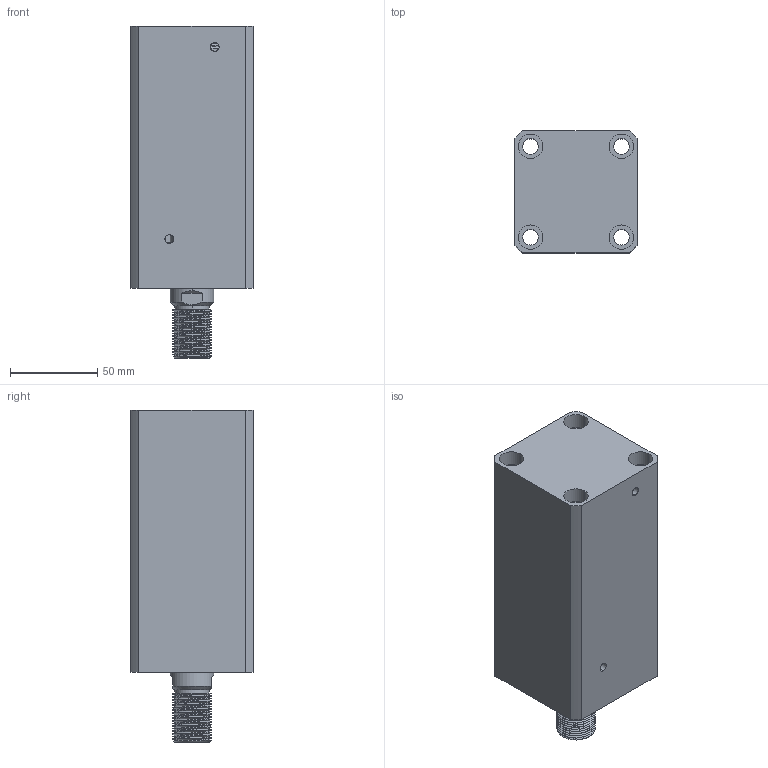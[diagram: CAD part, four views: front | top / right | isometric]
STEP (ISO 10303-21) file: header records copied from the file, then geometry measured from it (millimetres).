
FILE_DESCRIPTION (( 'STEP AP214' ), '1' );
FILE_NAME ('chtb-sdma40x95w_asm.STEP', '2018-06-06T00:10:54', ( 'Windows' ), ( 'Microsoft' ), 'SwSTEP 2.0', 'SolidWorks 2015', '' );
FILE_SCHEMA (( 'AUTOMOTIVE_DESIGN' ));
Length unit declared in the file: millimetre
Products named in the file (4): CHTB-SDMA40X95NBT; CHTB-SD40X95WHSG; CHTB-SD40QG; chtb-sdma40x95w_asm
Assembly tree (3 placements, depth 2):
  chtb-sdma40x95w_asm
    CHTB-SD40QG
    CHTB-SD40X95WHSG
    CHTB-SDMA40X95NBT
Bounding box: 70 x 70 x 190 mm (x, y, z)
Volume: 619820.1 mm3; surface area: 119678.8 mm2
Topology: 3 solids, 4 shells, 203 faces, 545 edges, 363 vertices
Faces by surface type: cylinder 122, plane 40, bspline 16, torus 14, cone 11
Entity records: 13587 total; most frequent: CARTESIAN_POINT 8658, ORIENTED_EDGE 1078, DIRECTION 914, EDGE_CURVE 539, AXIS2_PLACEMENT_3D 378, VERTEX_POINT 363, EDGE_LOOP 240, ADVANCED_FACE 203
